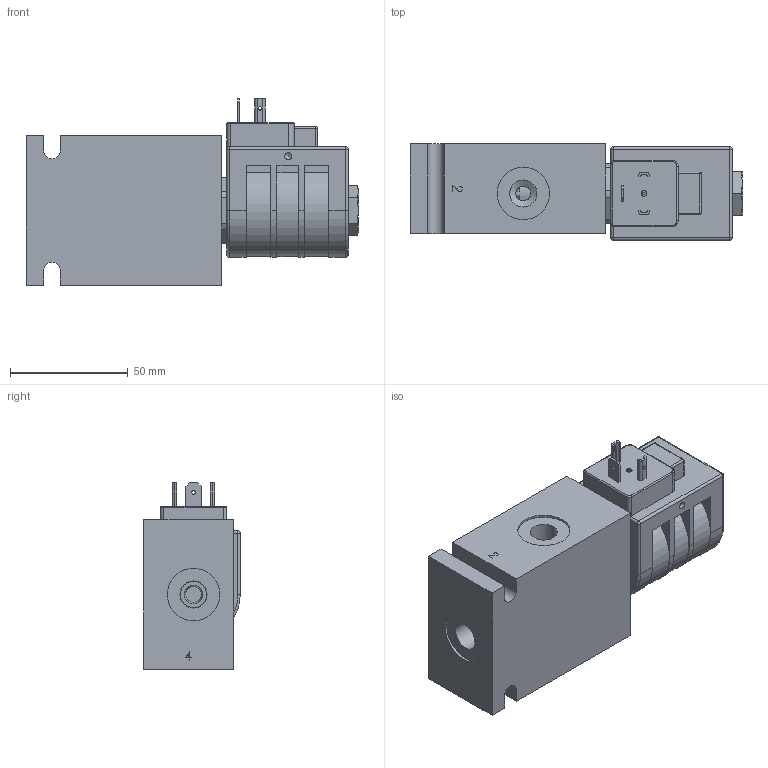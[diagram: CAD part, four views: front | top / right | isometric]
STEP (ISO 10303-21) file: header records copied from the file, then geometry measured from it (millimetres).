
FILE_DESCRIPTION( ( 'Unknown' ), '1' );
FILE_NAME( 'G:/Graphic Design/Graphic Design 2/Data Sheets/SOLENOID OPERATED VALVES/4_STEP/4W2P Spool/D-DGS4A0MA4.stp', 'Unknown', ( 'Unknown' ), ( 'Unknown' ), 'PSStep 16.0.42', 'Unknown', ' ' );
FILE_SCHEMA( ( 'AUTOMOTIVE_DESIGN { 1 0 10303 214 1 1 1 1 }' ) );
Length unit declared in the file: millimetre
Products named in the file (20): D-DHC12; DHC-Body; DHC-Disc; DHC-Disc-oa0; PT-EL-HC-TerminalConnectors; dgs4a00; DGS4A00-3D Full1; DGS4A00-3D Full2; DGS4A00-3D Full3; DGS4A00-3D Full4; DGS4A00-3D Full5; DGS4A00-3D Full6; DGS4A00-3D Full7; DGS4A00-3D Full8; DGS4A00-3D Full9; DGS4A00-3D Full10; DGS4A00-3D Full11; Assem1; Delta_1_2_nut1 - Copy; B-DDGA4
Assembly tree (19 placements, depth 3):
  Assem1
    Delta_1_2_nut1 - Copy
    B-DDGA4
    dgs4a00
      DGS4A00-3D Full1
      DGS4A00-3D Full2
      DGS4A00-3D Full3
      DGS4A00-3D Full4
      DGS4A00-3D Full5
      DGS4A00-3D Full6
      DGS4A00-3D Full7
      DGS4A00-3D Full8
      DGS4A00-3D Full9
      DGS4A00-3D Full10
      DGS4A00-3D Full11
    D-DHC12
      DHC-Body
      DHC-Disc
      DHC-Disc-oa0
      PT-EL-HC-TerminalConnectors
Bounding box: 140.71 x 40.9 x 79.1 mm (x, y, z)
Surface area: 60782.2 mm2 (no closed solid volume)
Topology: 0 solids, 797 shells, 797 faces, 3818 edges, 3669 vertices
Faces by surface type: plane 396, cylinder 142, extrusion 118, cone 85, torus 50, sphere 6
Full cylindrical faces by diameter (mm): 0.2 x4, 1 x1, 1.5 x3, 2.5 x1, 3 x2, 6.3 x2, 10.668 x1, 10.998 x1, 11 x1, 11.11 x1, 11.5 x7, 12.586 x1, 12.675 x1, 12.7 x2, 12.992 x1, 13 x1, 13.043 x2, 14 x1, 14.275 x1, 14.592 x1, 14.643 x2, 15.773 x4, 15.875 x2, 15.9 x1, 16.167 x1, 16.218 x2, 17.323 x1, 17.374 x4, 17.501 x1, 18.91 x2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
Entity records: 46736 total; most frequent: CARTESIAN_POINT 13445, DIRECTION 4926, VERTEX_POINT 3636, ORIENTED_EDGE 3630, EDGE_CURVE 3630, VECTOR 1876, LINE 1758, AXIS2_PLACEMENT_3D 1525
